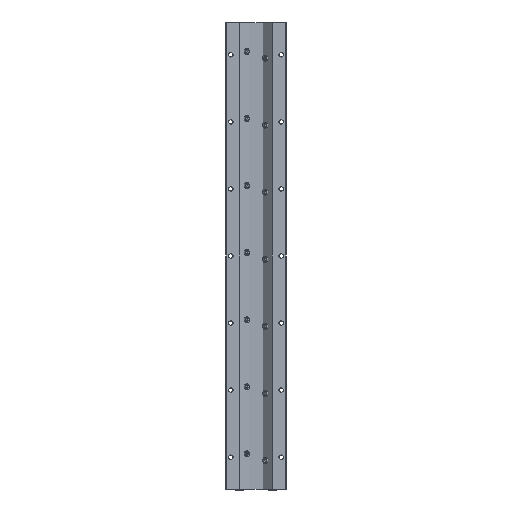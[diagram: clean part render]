
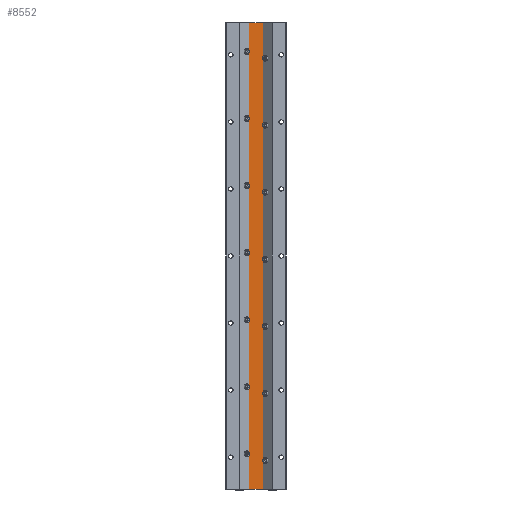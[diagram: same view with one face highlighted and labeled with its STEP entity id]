
A CAD part, front view. The second image highlights one B-rep face of the part: STEP entity #8552.
In plain terms, the highlighted planar face has unit normal (0, -1, 0).
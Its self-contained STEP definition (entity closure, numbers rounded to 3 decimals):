
#1078 = CARTESIAN_POINT ( 'NONE',  ( -11.015, 19., 0. ) ) ;
#1079 = LINE ( 'NONE', #1078, #1081 ) ;
#1080 = DIRECTION ( 'NONE',  ( 1., 0., 0. ) ) ;
#1081 = VECTOR ( 'NONE', #1080, 1000. ) ;
#1211 = DIRECTION ( 'NONE',  ( 0., 0., 1. ) ) ;
#1212 = VECTOR ( 'NONE', #1211, 1000. ) ;
#1213 = CARTESIAN_POINT ( 'NONE',  ( -11.015, 19., -696. ) ) ;
#1214 = LINE ( 'NONE', #1213, #1212 ) ;
#1215 = CARTESIAN_POINT ( 'NONE',  ( -11.015, 19., -696. ) ) ;
#1225 = CARTESIAN_POINT ( 'NONE',  ( -11.015, 19., 0. ) ) ;
#1235 = DIRECTION ( 'NONE',  ( 0., 0., 1. ) ) ;
#1236 = VECTOR ( 'NONE', #1235, 1000. ) ;
#1237 = CARTESIAN_POINT ( 'NONE',  ( 11.015, 19., -696. ) ) ;
#1238 = LINE ( 'NONE', #1237, #1236 ) ;
#1240 = CARTESIAN_POINT ( 'NONE',  ( 11.015, 19., -696. ) ) ;
#1241 = CARTESIAN_POINT ( 'NONE',  ( 11.015, 19., 0. ) ) ;
#1978 = DIRECTION ( 'NONE',  ( 0., 0., -1. ) ) ;
#1979 = DIRECTION ( 'NONE',  ( 0., -1., 0. ) ) ;
#1980 = CARTESIAN_POINT ( 'NONE',  ( -11.015, 19., -696. ) ) ;
#1981 = AXIS2_PLACEMENT_3D ( 'NONE', #1980, #1979, #1978 ) ;
#1982 = PLANE ( 'NONE',  #1981 ) ;
#1983 = FACE_OUTER_BOUND ( 'NONE', #8553, .T. ) ;
#2403 = DIRECTION ( 'NONE',  ( 1., 0., 0. ) ) ;
#2404 = VECTOR ( 'NONE', #2403, 1000. ) ;
#2405 = CARTESIAN_POINT ( 'NONE',  ( -11.015, 19., -696. ) ) ;
#2406 = LINE ( 'NONE', #2405, #2404 ) ;
#8066 = EDGE_CURVE ( 'NONE', #8154, #8125, #1079, .T. ) ;
#8125 = VERTEX_POINT ( 'NONE', #1241 ) ;
#8128 = EDGE_CURVE ( 'NONE', #8129, #8125, #1238, .T. ) ;
#8129 = VERTEX_POINT ( 'NONE', #1240 ) ;
#8154 = VERTEX_POINT ( 'NONE', #1225 ) ;
#8160 = VERTEX_POINT ( 'NONE', #1215 ) ;
#8162 = EDGE_CURVE ( 'NONE', #8160, #8154, #1214, .T. ) ;
#8428 = ORIENTED_EDGE ( 'NONE', *, *, #8162, .F. ) ;
#8552 = ADVANCED_FACE ( 'NONE', ( #1983 ), #1982, .T. ) ;
#8553 = EDGE_LOOP ( 'NONE', ( #8554, #8428, #8752, #8754 ) ) ;
#8554 = ORIENTED_EDGE ( 'NONE', *, *, #8066, .F. ) ;
#8752 = ORIENTED_EDGE ( 'NONE', *, *, #8753, .T. ) ;
#8753 = EDGE_CURVE ( 'NONE', #8160, #8129, #2406, .T. ) ;
#8754 = ORIENTED_EDGE ( 'NONE', *, *, #8128, .T. ) ;
